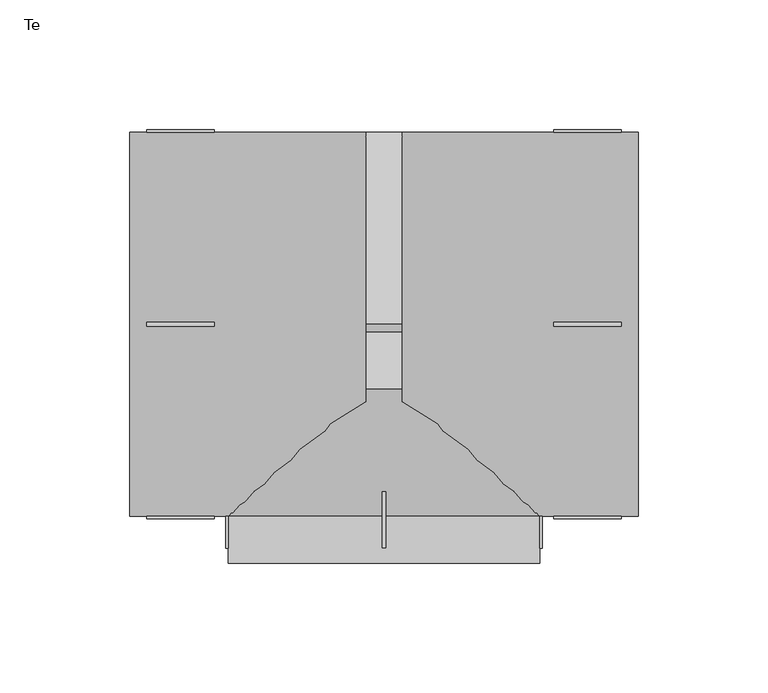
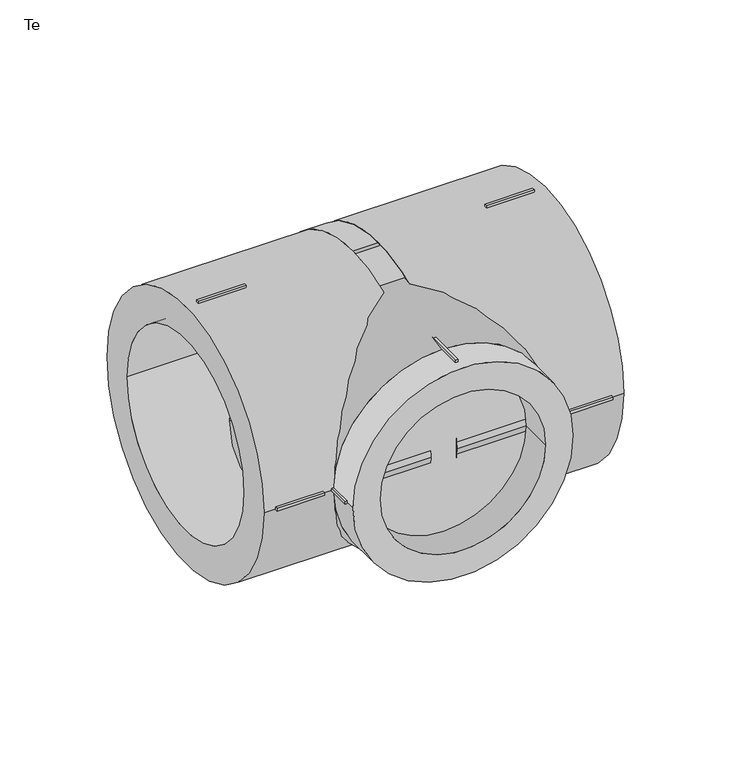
"""IFC4 building model written with IfcOpenShell, lengths in millimetres: pipe fitting geometry, EGB_VASEN_ PPR_Te WXR300_Te reducida WXR310 : Te."""

from ifc_helpers import new_model, si_unit, point, frame, origin, origin_2d, place, context, project, spatial, polyline, circle_curve, trimmed, segment, composite_curve, outline, extrude, source, transform, mapped, element, save
from ifc_brep_helpers import plane_surface, revolved_surface, advanced_brep


def te_dafe9ea1(model_context):
    return source(origin(), model_context, "Body", "SolidModel", [
        extrude(outline(polyline([(-0.75, -63.0), (0.75, -63.0), (0.75, -86.2), (-0.75, -86.2), (-0.75, -63.0)])), frame((0.0, 0.0, 59.0), z_axis=(0.0, 0.0, 1.0), x_axis=(1.0, 0.0, 0.0)), (0.0, 0.0, 1.0), 2.0),
        extrude(outline(polyline([(-0.75, -63.0), (0.75, -63.0), (0.75, -86.2), (-0.75, -86.2), (-0.75, -63.0)])), frame((0.0, 0.0, -61.0), z_axis=(0.0, 0.0, 1.0), x_axis=(1.0, 0.0, 0.0)), (0.0, 0.0, 1.0), 2.0),
        extrude(outline(polyline([(59.0, -63.0), (61.0, -63.0), (61.0, -86.2), (59.0, -86.2), (59.0, -63.0)])), frame((0.0, 0.0, -0.75), z_axis=(0.0, 0.0, 1.0), x_axis=(1.0, 0.0, 0.0)), (0.0, 0.0, 1.0), 1.5),
        extrude(outline(polyline([(-61.0, -63.0), (-59.0, -63.0), (-59.0, -86.2), (-61.0, -86.2), (-61.0, -63.0)])), frame((0.0, 0.0, -0.75), z_axis=(0.0, 0.0, 1.0), x_axis=(1.0, 0.0, 0.0)), (0.0, 0.0, 1.0), 1.5),
        extrude(outline(polyline([(65.5, -0.75), (65.5, 0.75), (91.5, 0.75), (91.5, -0.75), (65.5, -0.75)])), frame((0.0, 0.0, 73.0), z_axis=(0.0, 0.0, 1.0), x_axis=(1.0, 0.0, 0.0)), (0.0, 0.0, 1.0), 2.0),
        extrude(outline(polyline([(65.5, -0.75), (65.5, 0.75), (91.5, 0.75), (91.5, -0.75), (65.5, -0.75)])), frame((0.0, 0.0, -75.0), z_axis=(0.0, 0.0, 1.0), x_axis=(1.0, 0.0, 0.0)), (0.0, 0.0, 1.0), 2.0),
        extrude(outline(polyline([(65.5, 73.0), (65.5, 75.0), (91.5, 75.0), (91.5, 73.0), (65.5, 73.0)])), frame((0.0, 0.0, -0.75), z_axis=(0.0, 0.0, 1.0), x_axis=(1.0, 0.0, 0.0)), (0.0, 0.0, 1.0), 1.5),
        extrude(outline(polyline([(65.5, -75.0), (65.5, -73.0), (91.5, -73.0), (91.5, -75.0), (65.5, -75.0)])), frame((0.0, 0.0, -0.75), z_axis=(0.0, 0.0, 1.0), x_axis=(1.0, 0.0, 0.0)), (0.0, 0.0, 1.0), 1.5),
        extrude(outline(polyline([(-65.5, 0.75), (-65.5, -0.75), (-91.5, -0.75), (-91.5, 0.75), (-65.5, 0.75)])), frame((0.0, 0.0, 73.0), z_axis=(0.0, 0.0, 1.0), x_axis=(1.0, 0.0, 0.0)), (0.0, 0.0, 1.0), 2.0),
        extrude(outline(polyline([(-65.5, 0.75), (-65.5, -0.75), (-91.5, -0.75), (-91.5, 0.75), (-65.5, 0.75)])), frame((0.0, 0.0, -75.0), z_axis=(0.0, 0.0, 1.0), x_axis=(1.0, 0.0, 0.0)), (0.0, 0.0, 1.0), 2.0),
        extrude(outline(polyline([(-65.5, 75.0), (-65.5, 73.0), (-91.5, 73.0), (-91.5, 75.0), (-65.5, 75.0)])), frame((0.0, 0.0, -0.75), z_axis=(0.0, 0.0, 1.0), x_axis=(1.0, 0.0, 0.0)), (0.0, 0.0, 1.0), 1.5),
        extrude(outline(polyline([(-65.5, -73.0), (-65.5, -75.0), (-91.5, -75.0), (-91.5, -73.0), (-65.5, -73.0)])), frame((0.0, 0.0, -0.75), z_axis=(0.0, 0.0, 1.0), x_axis=(1.0, 0.0, 0.0)), (0.0, 0.0, 1.0), 1.5),
        extrude(outline(composite_curve([segment(trimmed(circle_curve(origin_2d(), 60.0), [point((0.0, 60.0))], [point((0.0, -60.0))], False, "CARTESIAN"), True, "CONTINUOUS"), segment(trimmed(circle_curve(origin_2d(), 60.0), [point((0.0, -60.0))], [point((0.0, 60.0))], False, "CARTESIAN"), True, "CONTINUOUS")], self_intersect=False), holes=[composite_curve([segment(trimmed(circle_curve(origin_2d(), 45.0), [point((0.0, 45.0))], [point((0.0, -45.0))], True, "CARTESIAN"), True, "CONTINUOUS"), segment(trimmed(circle_curve(origin_2d(), 45.0), [point((0.0, -45.0))], [point((0.0, 45.0))], True, "CARTESIAN"), True, "CONTINUOUS")], self_intersect=False)]), frame((0.0, -92.0, 0.0), z_axis=(0.0, 1.0, 0.0), x_axis=(0.0, 0.0, 1.0)), (0.0, 0.0, 1.0), 18.0),
        extrude(outline(composite_curve([segment(trimmed(circle_curve(origin_2d(), 74.0), [point((-74.0, 0.0))], [point((74.0, 0.0))], False, "CARTESIAN"), True, "CONTINUOUS"), segment(trimmed(circle_curve(origin_2d(), 74.0), [point((74.0, 0.0))], [point((-74.0, 0.0))], False, "CARTESIAN"), True, "CONTINUOUS")], self_intersect=False), holes=[composite_curve([segment(trimmed(circle_curve(origin_2d(), 55.0), [point((-55.0, 0.0))], [point((55.0, 0.0))], True, "CARTESIAN"), True, "CONTINUOUS"), segment(trimmed(circle_curve(origin_2d(), 55.0), [point((55.0, 0.0))], [point((-55.0, 0.0))], True, "CARTESIAN"), True, "CONTINUOUS")], self_intersect=False)]), frame((7.04, 0.0, 0.0), z_axis=(1.0, 0.0, 0.0), x_axis=(0.0, 1.0, 0.0)), (0.0, 0.0, 1.0), 90.96),
        extrude(outline(composite_curve([segment(trimmed(circle_curve(origin_2d(), 74.0), [point((-74.0, 0.0))], [point((74.0, 0.0))], False, "CARTESIAN"), True, "CONTINUOUS"), segment(trimmed(circle_curve(origin_2d(), 74.0), [point((74.0, 0.0))], [point((-74.0, 0.0))], False, "CARTESIAN"), True, "CONTINUOUS")], self_intersect=False), holes=[composite_curve([segment(trimmed(circle_curve(origin_2d(), 55.0), [point((-55.0, 0.0))], [point((55.0, 0.0))], True, "CARTESIAN"), True, "CONTINUOUS"), segment(trimmed(circle_curve(origin_2d(), 55.0), [point((55.0, 0.0))], [point((-55.0, 0.0))], True, "CARTESIAN"), True, "CONTINUOUS")], self_intersect=False)]), frame((-98.0, 0.0, 0.0), z_axis=(1.0, 0.0, 0.0), x_axis=(0.0, 1.0, 0.0)), (0.0, 0.0, 1.0), 90.96),
        advanced_brep(
        [(74.0, 0.0, 0.0), (-74.0, 0.0, 0.0), (60.0, -74.0, 0.0), (-60.0, -74.0, 0.0)],
        [
            (0, 1, circle_curve(frame((0.0, 0.0, 0.0), z_axis=(0.0, 1.0, 0.0), x_axis=(1.0, 0.0, 0.0)), 74.0)),
            (1, 0, circle_curve(frame((0.0, 0.0, 0.0), z_axis=(0.0, 1.0, 0.0), x_axis=(-1.0, 0.0, 0.0)), 74.0)),
            (2, 3, circle_curve(frame((0.0, -74.0, 0.0), z_axis=(0.0, -1.0, 0.0), x_axis=(-1.0, 0.0, 0.0)), 60.0)),
            (3, 2, circle_curve(frame((0.0, -74.0, 0.0), z_axis=(0.0, -1.0, 0.0), x_axis=(1.0, 0.0, 0.0)), 60.0)),
            (3, 1),
            (0, 2),
        ],
        [
            plane_surface(frame((0.0, 0.0, 0.0), z_axis=(0.0, 1.0, 0.0), x_axis=(0.0, 0.0, -1.0))),
            plane_surface(frame((0.0, -74.0, 0.0), z_axis=(0.0, -1.0, 0.0), x_axis=(0.0, 0.0, -1.0))),
            revolved_surface(polyline([(-59.99999999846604, -74.0, 0.0), (-74.0, 0.0, 0.0)]), (0.0, -391.1428571, 0.0), (0.0, 1.0, 0.0)),
            revolved_surface(polyline([(59.99999999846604, -74.0, 0.0), (74.0, 0.0, 0.0)]), (0.0, -391.1428571, 0.0), (0.0, 1.0, 0.0)),
        ],
        [
            (0, [[1, 2]]),
            (1, [[3, 4]]),
            (2, [[-4, 5, -1, 6]]),
            (3, [[-3, -6, -2, -5]]),
        ],
    ),
        extrude(outline(composite_curve([segment(trimmed(circle_curve(origin_2d(), 74.0), [point((-74.0, 0.0))], [point((74.0, 0.0))], False, "CARTESIAN"), True, "CONTINUOUS"), segment(trimmed(circle_curve(origin_2d(), 74.0), [point((74.0, 0.0))], [point((-74.0, 0.0))], False, "CARTESIAN"), True, "CONTINUOUS")], self_intersect=False)), frame((-7.04, 0.0, 0.0), z_axis=(1.0, 0.0, 0.0), x_axis=(0.0, 1.0, 0.0)), (0.0, 0.0, 1.0), 14.08),
    ])


if __name__ == "__main__":
    model = new_model("IFC4")
    model_context = context("Model", 3, world=origin())
    ifc_project = project(units=[si_unit("LENGTHUNIT", "METRE", prefix="MILLI")], contexts=[model_context])
    site = spatial("IfcSite", under=ifc_project)
    building = spatial("IfcBuilding", under=site)
    placement = place(None, origin())
    te_shape = te_dafe9ea1(model_context)
    element("IfcPipeFitting", 1, ObjectType="EGB_VASEN_ PPR_Te WXR300_Te reducida WXR310 : Te", at=placement, inside=building, context=model_context, shape_type="MappedRepresentation", body=[
        mapped(te_shape, transform((0.0, 0.0, 0.0), x_axis=(1.0, 0.0, 0.0), y_axis=(0.0, 1.0, 0.0), z_axis=(0.0, 0.0, 1.0))),
    ])
    save(model, "model.ifc")
